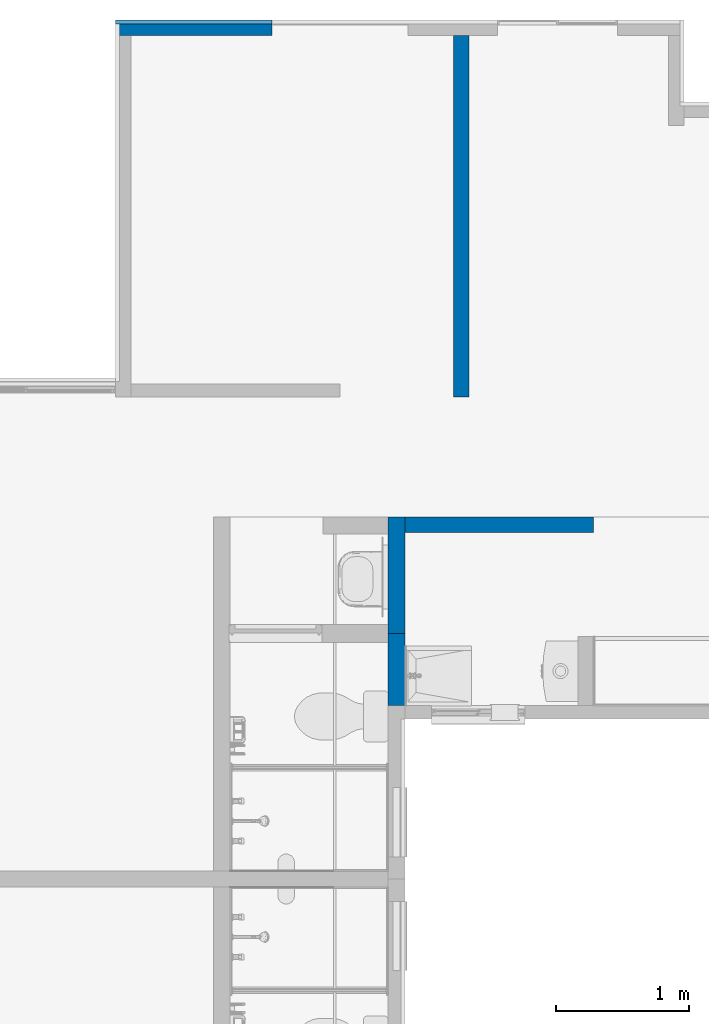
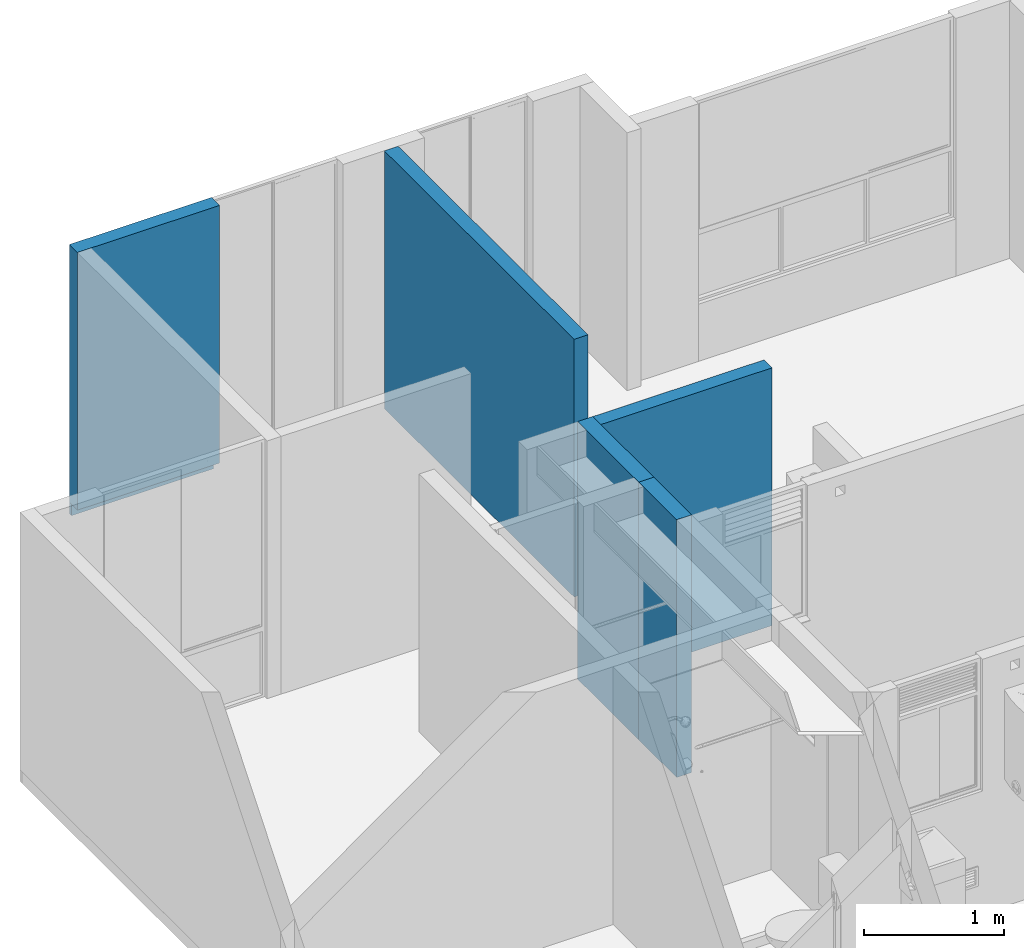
# One storey, part 16 of 48: 6 walls.
"""IFC4 building model written with IfcOpenShell, lengths in metres."""

from ifc_helpers import new_model, entity, si_unit, converted_unit, derived_unit, direction, frame, origin, place, context, subcontext, project, spatial, indexed_curve, outline, extrude, material, constituent, constituent_set, type_object, element, save


model = new_model("IFC4")

# Units and contexts
model_context = context("Model", 3, precision=1e-05, world=origin(), true_north=direction((6.123031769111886e-17, 1.0)))
body_context = subcontext(model_context, "Body", "Model", "MODEL_VIEW")
ifc_project = project(units=[si_unit("LENGTHUNIT", "METRE"), si_unit("AREAUNIT", "SQUARE_METRE"), si_unit("VOLUMEUNIT", "CUBIC_METRE"), converted_unit("PLANEANGLEUNIT", "DEGREE", entity("IfcRatioMeasure", 0.017453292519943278), si_unit("PLANEANGLEUNIT", "RADIAN"), dimensions=[0, 0, 0, 0, 0, 0, 0]), si_unit("MASSUNIT", "GRAM", prefix="KILO"), derived_unit("MASSDENSITYUNIT", [(si_unit("MASSUNIT", "GRAM", prefix="KILO"), 1), (si_unit("LENGTHUNIT", "METRE"), -3)]), derived_unit("IONCONCENTRATIONUNIT", [(si_unit("MASSUNIT", "GRAM", prefix="KILO"), 1), (si_unit("LENGTHUNIT", "METRE"), -3)]), derived_unit("MOMENTOFINERTIAUNIT", [(si_unit("LENGTHUNIT", "METRE"), 4)]), si_unit("TIMEUNIT", "SECOND"), si_unit("FREQUENCYUNIT", "HERTZ"), si_unit("THERMODYNAMICTEMPERATUREUNIT", "DEGREE_CELSIUS"), derived_unit("THERMALTRANSMITTANCEUNIT", [(si_unit("MASSUNIT", "GRAM", prefix="KILO"), 1), (si_unit("THERMODYNAMICTEMPERATUREUNIT", "KELVIN"), -1), (si_unit("TIMEUNIT", "SECOND"), -3)]), derived_unit("THERMALCONDUCTANCEUNIT", [(si_unit("MASSUNIT", "GRAM", prefix="KILO"), 1), (si_unit("THERMODYNAMICTEMPERATUREUNIT", "KELVIN"), -1), (si_unit("TIMEUNIT", "SECOND"), -3), (si_unit("LENGTHUNIT", "METRE"), 1)]), derived_unit("VOLUMETRICFLOWRATEUNIT", [(si_unit("LENGTHUNIT", "METRE"), 3), (si_unit("TIMEUNIT", "SECOND"), -1)]), derived_unit("MASSFLOWRATEUNIT", [(si_unit("MASSUNIT", "GRAM", prefix="KILO"), 1), (si_unit("TIMEUNIT", "SECOND"), -1)]), derived_unit("ROTATIONALFREQUENCYUNIT", [(si_unit("TIMEUNIT", "SECOND"), -1)]), si_unit("ELECTRICCURRENTUNIT", "AMPERE"), si_unit("ELECTRICVOLTAGEUNIT", "VOLT"), si_unit("POWERUNIT", "WATT"), si_unit("FORCEUNIT", "NEWTON", prefix="KILO"), si_unit("ILLUMINANCEUNIT", "LUX"), si_unit("LUMINOUSFLUXUNIT", "LUMEN"), si_unit("LUMINOUSINTENSITYUNIT", "CANDELA"), derived_unit("USERDEFINED", [(si_unit("MASSUNIT", "GRAM", prefix="KILO"), -1), (si_unit("LENGTHUNIT", "METRE"), -2), (si_unit("TIMEUNIT", "SECOND"), 3), (si_unit("LUMINOUSFLUXUNIT", "LUMEN"), 1)]), derived_unit("USERDEFINED", [(si_unit("MASSUNIT", "GRAM", prefix="KILO"), 1), (si_unit("TIMEUNIT", "SECOND"), -3), (si_unit("LENGTHUNIT", "METRE"), 3), (si_unit("ELECTRICCURRENTUNIT", "AMPERE"), -2)]), derived_unit("SOUNDPOWERUNIT", [(si_unit("MASSUNIT", "GRAM", prefix="KILO"), 1), (si_unit("TIMEUNIT", "SECOND"), -3), (si_unit("LENGTHUNIT", "METRE"), 2)]), derived_unit("SOUNDPRESSUREUNIT", [(si_unit("MASSUNIT", "GRAM", prefix="KILO"), 1), (si_unit("LENGTHUNIT", "METRE"), -1), (si_unit("TIMEUNIT", "SECOND"), -2)]), derived_unit("LINEARVELOCITYUNIT", [(si_unit("LENGTHUNIT", "METRE"), 1), (si_unit("TIMEUNIT", "SECOND"), -1)]), si_unit("PRESSUREUNIT", "PASCAL"), derived_unit("USERDEFINED", [(si_unit("MASSUNIT", "GRAM", prefix="KILO"), 1), (si_unit("LENGTHUNIT", "METRE"), -2), (si_unit("TIMEUNIT", "SECOND"), -2)]), derived_unit("LINEARFORCEUNIT", [(si_unit("MASSUNIT", "GRAM", prefix="KILO"), 1), (si_unit("TIMEUNIT", "SECOND"), -2)]), derived_unit("PLANARFORCEUNIT", [(si_unit("MASSUNIT", "GRAM", prefix="KILO"), 1), (si_unit("LENGTHUNIT", "METRE"), -1), (si_unit("TIMEUNIT", "SECOND"), -2)]), derived_unit("SPECIFICHEATCAPACITYUNIT", [(si_unit("THERMODYNAMICTEMPERATUREUNIT", "KELVIN"), -1), (si_unit("LENGTHUNIT", "METRE"), 2), (si_unit("TIMEUNIT", "SECOND"), -2)]), derived_unit("HEATINGVALUEUNIT", [(si_unit("LENGTHUNIT", "METRE"), 2), (si_unit("TIMEUNIT", "SECOND"), -2)]), derived_unit("VAPORPERMEABILITYUNIT", [(si_unit("LENGTHUNIT", "METRE"), -1), (si_unit("TIMEUNIT", "SECOND"), 1)]), derived_unit("DYNAMICVISCOSITYUNIT", [(si_unit("MASSUNIT", "GRAM", prefix="KILO"), 1), (si_unit("TIMEUNIT", "SECOND"), -1), (si_unit("LENGTHUNIT", "METRE"), -1)]), derived_unit("THERMALEXPANSIONCOEFFICIENTUNIT", [(si_unit("THERMODYNAMICTEMPERATUREUNIT", "KELVIN"), -1)]), derived_unit("MODULUSOFELASTICITYUNIT", [(si_unit("MASSUNIT", "GRAM", prefix="KILO"), 1), (si_unit("LENGTHUNIT", "METRE"), -1), (si_unit("TIMEUNIT", "SECOND"), -2)]), derived_unit("ISOTHERMALMOISTURECAPACITYUNIT", [(si_unit("LENGTHUNIT", "METRE"), 3), (si_unit("MASSUNIT", "GRAM", prefix="KILO"), -1)]), derived_unit("MOISTUREDIFFUSIVITYUNIT", [(si_unit("TIMEUNIT", "SECOND"), -1), (si_unit("LENGTHUNIT", "METRE"), 2)])], contexts=[model_context])

# Site, building, storey
site_placement = place(None, origin())
site = spatial("IfcSite", under=ifc_project, at=site_placement, Name="Default", CompositionType="ELEMENT")
building_placement = place(site_placement, origin())
building = spatial("IfcBuilding", under=site, at=building_placement, CompositionType="ELEMENT")
storey_placement = place(building_placement, frame((0.0, 0.0, 9.40000000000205)))
storey = spatial("IfcBuildingStorey", under=building, at=storey_placement, Name="Nivel 5", CompositionType="ELEMENT", Elevation=9.40000000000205)

# Walls
ifc_material_1 = material(Name="LADRILLO CLARO", Category="Materials")
wall_type_1 = type_object("IfcWallType", Name="Basic Wall:B2010 - 0.115m - ME mampostería no estructural - Ladrillo", PredefinedType="STANDARD")
wall_1_placement = place(storey_placement, frame((3.091699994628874, -0.03750002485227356, 0.0), z_axis=(0.0, 0.0, 1.0), x_axis=(-1.0, 0.0, 0.0)))
element("IfcWall", 1, at=wall_1_placement, inside=storey, type_object=wall_type_1, material=ifc_material_1, Name="Basic Wall:B2010 - 0.115m - ME mampostería no estructural - Ladrillo", ObjectType="Basic Wall:B2010 - 0.115m - ME mampostería no estructural - Ladrillo", PredefinedType="NOTDEFINED", context=body_context, shape_type="SweptSolid", body=[
    extrude(outline(indexed_curve([(1.174199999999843, 0.0575), (-5.2132214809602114e-17, 0.05749999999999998), (5.213221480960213e-17, -0.0575), (1.174199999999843, -0.0575), (1.174199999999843, 0.0575)], self_intersect=False)), origin(), (0.0, 0.0, 1.0), 2.2500000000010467),
])
ifc_material_2 = material(Name="Ladrillo claro (Aire)", Category="Materials")
wall_type_2 = type_object("IfcWallType", Name="Basic Wall:B2010 - 0.115m - Muro interior en mampostería - Ladrillo", PredefinedType="STANDARD")
wall_2_placement = place(storey_placement, frame((4.509999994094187, -0.0950000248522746, 0.0), z_axis=(0.0, 0.0, 1.0), x_axis=(0.0, -1.0, 0.0)))
element("IfcWall", 2, at=wall_2_placement, inside=storey, type_object=wall_type_2, material=ifc_material_2, Name="Basic Wall:B2010 - 0.115m - Muro interior en mampostería - Ladrillo", ObjectType="Basic Wall:B2010 - 0.115m - Muro interior en mampostería - Ladrillo", PredefinedType="NOTDEFINED", context=body_context, shape_type="SweptSolid", body=[
    extrude(outline(indexed_curve([(2.715000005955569, 0.057500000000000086), (-2.373343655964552e-18, 0.057499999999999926), (2.373343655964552e-18, -0.057499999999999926), (2.715000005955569, -0.05749999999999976), (2.715000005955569, 0.057500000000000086)], self_intersect=False)), origin(), (0.0, 0.0, 1.0), 2.2499999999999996),
])
wall_3_placement = place(storey_placement, frame((4.087499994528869, -3.7675000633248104, 0.0)))
element("IfcWall", 3, at=wall_3_placement, inside=storey, type_object=wall_type_2, material=ifc_material_2, Name="Basic Wall:B2010 - 0.115m - Muro interior en mampostería - Ladrillo", ObjectType="Basic Wall:B2010 - 0.115m - Muro interior en mampostería - Ladrillo", PredefinedType="NOTDEFINED", context=body_context, shape_type="SweptSolid", body=[
    extrude(outline(indexed_curve([(1.4149999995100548, 0.05749999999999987), (-1.9595423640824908e-16, 0.057499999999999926), (1.9595423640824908e-16, -0.057499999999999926), (1.4149999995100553, -0.057499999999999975), (1.4149999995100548, 0.05749999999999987)], self_intersect=False)), origin(), (0.0, 0.0, 1.0), 2.2499999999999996),
])
ifc_material_3 = material(Name="Pañete, estuco y pintura", Category="Materials")
ifc_constituent_1 = constituent(ifc_material_3, Name="Pañete, estuco y pintura", Category="Materials")
ifc_constituent_2 = constituent(ifc_material_2, Name="Ladrillo claro (Aire)", Category="Materials")
ifc_constituent_set = constituent_set(constituents=[ifc_constituent_1, ifc_constituent_2], Name="Basic Wall:B2010 - 0.115m - Muro interior en mampostería - Ladrillo + Pañete+ estuco+ pintura")
wall_type_3 = type_object("IfcWallType", Name="Basic Wall:B2010 - 0.115m - Muro interior en mampostería - Ladrillo + Pañete+ estuco+ pintura", PredefinedType="STANDARD", material=ifc_constituent_set)
wall_4_placement = place(storey_placement, frame((4.024999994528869, -3.7100000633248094, 0.0), z_axis=(0.0, 0.0, 1.0), x_axis=(0.0, -1.0, 0.0)))
element("IfcWall", 4, at=wall_4_placement, inside=storey, type_object=wall_type_3, material=ifc_constituent_set, Name="Basic Wall:B2010 - 0.115m - Muro interior en mampostería - Ladrillo + Pañete+ estuco+ pintura", ObjectType="Basic Wall:B2010 - 0.115m - Muro interior en mampostería - Ladrillo + Pañete+ estuco+ pintura", PredefinedType="NOTDEFINED", context=body_context, shape_type="SweptSolid", body=[
    extrude(outline(indexed_curve([(-0.32083333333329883, -0.0033333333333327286), (0.35916666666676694, -0.0033333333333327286), (0.42666666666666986, -0.0033333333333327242), (0.4266666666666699, 0.0066666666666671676), (-0.4458333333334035, 0.0066666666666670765), (-0.44583333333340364, -0.0033333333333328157), (-0.32083333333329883, -0.0033333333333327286)], self_intersect=False)), frame((0.44583333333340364, -0.05916666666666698, 0.0)), (0.0, 0.0, 1.0), 2.250000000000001),
    extrude(outline(indexed_curve([(0.25700000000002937, -0.04599999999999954), (0.37200000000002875, -0.04599999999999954), (0.37200000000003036, 0.0690000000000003), (-0.5005000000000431, 0.06900000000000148), (-0.5005000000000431, -0.04599999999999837), (0.25700000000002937, -0.04599999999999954)], self_intersect=False)), frame((0.3720000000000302, 0.016500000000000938, 0.0), z_axis=(0.0, 0.0, 1.0), x_axis=(-1.0, 0.0, 0.0)), (0.0, 0.0, 1.0), 2.250000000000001),
])
wall_5_placement = place(storey_placement, frame((4.024999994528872, -4.582500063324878, 0.0), z_axis=(0.0, 0.0, 1.0), x_axis=(0.0, -1.0, 0.0)))
element("IfcWall", 5, at=wall_5_placement, inside=storey, type_object=wall_type_3, material=ifc_constituent_set, Name="Basic Wall:B2010 - 0.115m - Muro interior en mampostería - Ladrillo + Pañete+ estuco+ pintura", ObjectType="Basic Wall:B2010 - 0.115m - Muro interior en mampostería - Ladrillo + Pañete+ estuco+ pintura", PredefinedType="NOTDEFINED", context=body_context, shape_type="SweptSolid", body=[
    extrude(outline(indexed_curve([(-0.1628056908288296, -0.004000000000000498), (0.3117085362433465, -0.004000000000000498), (0.31170853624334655, 0.005999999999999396), (-0.23030569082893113, 0.005999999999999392), (-0.2303056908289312, -0.0040000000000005), (-0.1628056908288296, -0.004000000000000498)], self_intersect=False)), frame((0.23030569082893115, -0.058499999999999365, 0.0)), (0.0, 0.0, 1.0), 2.250000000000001),
    extrude(outline(indexed_curve([(0.09067143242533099, -0.03833333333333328), (0.12467143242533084, -0.03833333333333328), (0.21717139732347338, -0.0383333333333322), (0.2171713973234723, 0.07666666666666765), (-0.32484282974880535, 0.07666666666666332), (-0.3248428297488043, -0.03833333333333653), (0.09067143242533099, -0.03833333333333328)], self_intersect=False)), frame((0.21717139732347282, 0.02416666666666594, 0.0), z_axis=(0.0, 0.0, 1.0), x_axis=(-1.0, 0.0, 0.0)), (0.0, 0.0, 1.0), 2.250000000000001),
])
wall_type_4 = type_object("IfcWallType", Name="Basic Wall:B2010 - 0.03m - ME enchape  no estructural - Ladrillo", PredefinedType="STANDARD")
wall_6_placement = place(storey_placement, frame((3.092499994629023, 0.004999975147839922, -0.10000000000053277), z_axis=(0.0, 0.0, 1.0), x_axis=(-1.0, 0.0, 0.0)))
element("IfcWall", 6, at=wall_6_placement, inside=storey, type_object=wall_type_4, material=ifc_material_1, Name="Basic Wall:B2010 - 0.03m - ME enchape  no estructural - Ladrillo", ObjectType="Basic Wall:B2010 - 0.03m - ME enchape  no estructural - Ladrillo", PredefinedType="NOTDEFINED", context=body_context, shape_type="SweptSolid", body=[
    extrude(outline(indexed_curve([(1.1750000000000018, 0.015), (-1.4243869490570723e-16, 0.015), (1.4243869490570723e-16, -0.015), (1.175000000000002, -0.015), (1.1750000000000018, 0.015)], self_intersect=False)), origin(), (0.0, 0.0, 1.0), 0.09999999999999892),
])

save(model, "model.ifc")
